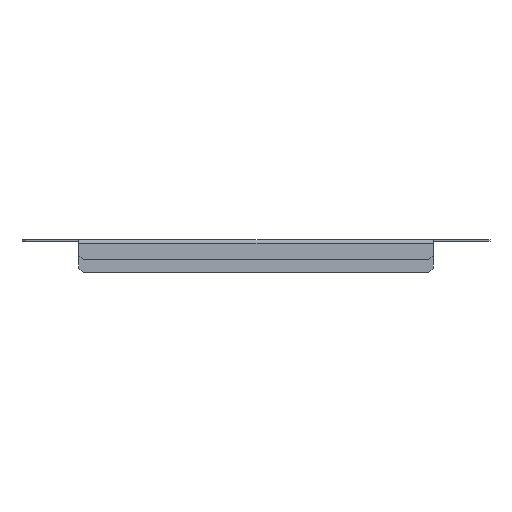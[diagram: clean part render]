
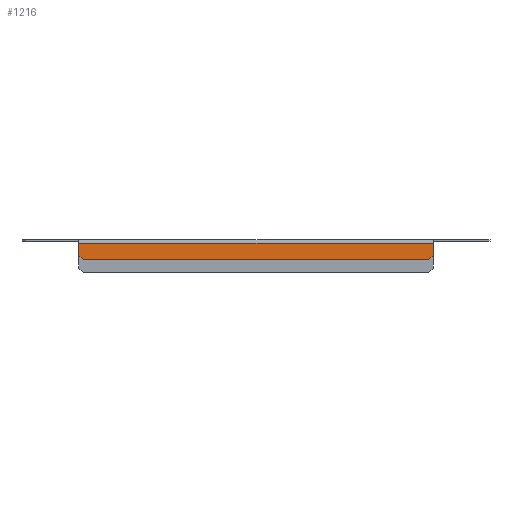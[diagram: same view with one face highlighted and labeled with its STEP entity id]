
A CAD part, front view. The second image highlights one B-rep face of the part: STEP entity #1216.
In plain terms, the highlighted planar face has unit normal (0, -1, 0).
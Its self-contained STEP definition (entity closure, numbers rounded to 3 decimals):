
#138 = DIRECTION ( 'NONE',  ( 0., 0., 1. ) ) ;
#139 = CARTESIAN_POINT ( 'NONE',  ( -146.25, -99.5, -27. ) ) ;
#140 = LINE ( 'NONE', #139, #1544 ) ;
#144 = DIRECTION ( 'NONE',  ( 0.707, 0., -0.707 ) ) ;
#145 = CARTESIAN_POINT ( 'NONE',  ( -142.75, -99.5, -16.3 ) ) ;
#146 = LINE ( 'NONE', #145, #1558 ) ;
#158 = DIRECTION ( 'NONE',  ( 0., 0., 1. ) ) ;
#159 = DIRECTION ( 'NONE',  ( 0., 1., 0. ) ) ;
#160 = CARTESIAN_POINT ( 'NONE',  ( 146.25, -99.5, -27. ) ) ;
#161 = PLANE ( 'NONE',  #1451 ) ;
#291 = CARTESIAN_POINT ( 'NONE',  ( 146.25, -99.5, -2.9 ) ) ;
#293 = CARTESIAN_POINT ( 'NONE',  ( -146.25, -99.5, -2.9 ) ) ;
#294 = CARTESIAN_POINT ( 'NONE',  ( 146.25, -99.5, -12.8 ) ) ;
#297 = CARTESIAN_POINT ( 'NONE',  ( -146.25, -99.5, -12.8 ) ) ;
#298 = CARTESIAN_POINT ( 'NONE',  ( 142.75, -99.5, -16.3 ) ) ;
#299 = CARTESIAN_POINT ( 'NONE',  ( -142.75, -99.5, -16.3 ) ) ;
#482 = EDGE_LOOP ( 'NONE', ( #558, #554, #614, #587, #612, #570 ) ) ;
#554 = ORIENTED_EDGE ( 'NONE', *, *, #1373, .T. ) ;
#558 = ORIENTED_EDGE ( 'NONE', *, *, #1364, .F. ) ;
#570 = ORIENTED_EDGE ( 'NONE', *, *, #1220, .T. ) ;
#587 = ORIENTED_EDGE ( 'NONE', *, *, #1292, .F. ) ;
#612 = ORIENTED_EDGE ( 'NONE', *, *, #1222, .F. ) ;
#614 = ORIENTED_EDGE ( 'NONE', *, *, #1382, .F. ) ;
#706 = VERTEX_POINT ( 'NONE', #299 ) ;
#707 = VERTEX_POINT ( 'NONE', #298 ) ;
#708 = VERTEX_POINT ( 'NONE', #297 ) ;
#711 = VERTEX_POINT ( 'NONE', #294 ) ;
#712 = VERTEX_POINT ( 'NONE', #293 ) ;
#714 = VERTEX_POINT ( 'NONE', #291 ) ;
#808 = LINE ( 'NONE', #809, #1490 ) ;
#809 = CARTESIAN_POINT ( 'NONE',  ( 146.25, -99.5, -2.9 ) ) ;
#810 = DIRECTION ( 'NONE',  ( 1., 0., 0. ) ) ;
#980 = LINE ( 'NONE', #981, #1598 ) ;
#981 = CARTESIAN_POINT ( 'NONE',  ( 146.25, -99.5, -16.3 ) ) ;
#982 = DIRECTION ( 'NONE',  ( -1., 0., 0. ) ) ;
#999 = LINE ( 'NONE', #1000, #1534 ) ;
#1000 = CARTESIAN_POINT ( 'NONE',  ( 146.25, -99.5, -12.8 ) ) ;
#1001 = DIRECTION ( 'NONE',  ( 0.707, 0., 0.707 ) ) ;
#1026 = LINE ( 'NONE', #1027, #1611 ) ;
#1027 = CARTESIAN_POINT ( 'NONE',  ( 146.25, -99.5, -1.4 ) ) ;
#1028 = DIRECTION ( 'NONE',  ( 0., 0., -1. ) ) ;
#1216 = ADVANCED_FACE ( 'NONE', ( #1442 ), #161, .F. ) ;
#1220 = EDGE_CURVE ( 'NONE', #708, #706, #146, .T. ) ;
#1222 = EDGE_CURVE ( 'NONE', #708, #712, #140, .T. ) ;
#1292 = EDGE_CURVE ( 'NONE', #712, #714, #808, .T. ) ;
#1364 = EDGE_CURVE ( 'NONE', #707, #706, #980, .T. ) ;
#1373 = EDGE_CURVE ( 'NONE', #707, #711, #999, .T. ) ;
#1382 = EDGE_CURVE ( 'NONE', #714, #711, #1026, .T. ) ;
#1442 = FACE_OUTER_BOUND ( 'NONE', #482, .T. ) ;
#1451 = AXIS2_PLACEMENT_3D ( 'NONE', #160, #159, #158 ) ;
#1490 = VECTOR ( 'NONE', #810, 1000. ) ;
#1534 = VECTOR ( 'NONE', #1001, 1000. ) ;
#1544 = VECTOR ( 'NONE', #138, 1000. ) ;
#1558 = VECTOR ( 'NONE', #144, 1000. ) ;
#1598 = VECTOR ( 'NONE', #982, 1000. ) ;
#1611 = VECTOR ( 'NONE', #1028, 1000. ) ;
